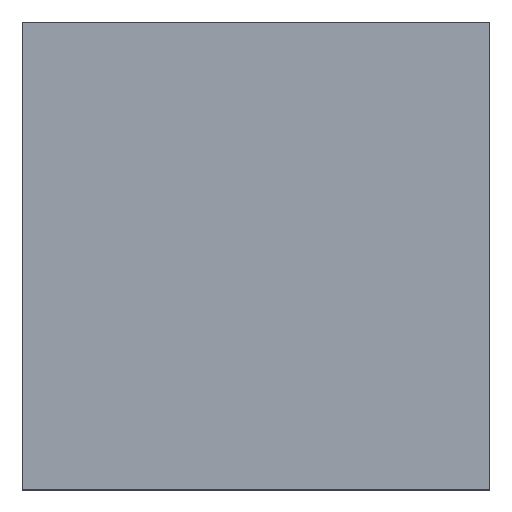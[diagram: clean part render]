
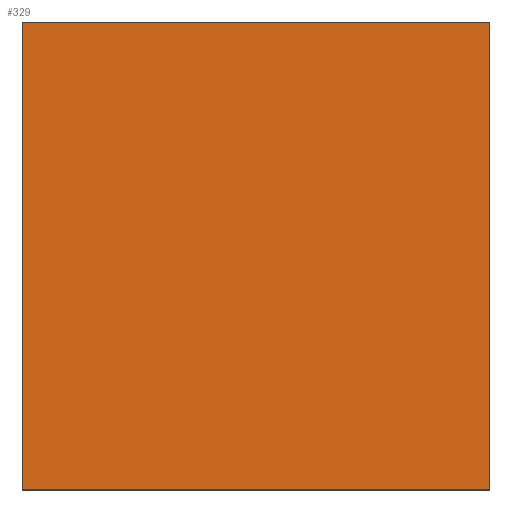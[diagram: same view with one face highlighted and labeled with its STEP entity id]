
A CAD part, top view. The second image highlights one B-rep face of the part: STEP entity #329.
In plain terms, the highlighted planar face has unit normal (0, 0, 1).
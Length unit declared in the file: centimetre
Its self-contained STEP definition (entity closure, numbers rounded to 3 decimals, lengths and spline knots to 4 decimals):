
#9 = VECTOR ( 'NONE', #427, 100. ) ;
#22 = CARTESIAN_POINT ( 'NONE',  ( 0., 1000., 1000. ) ) ;
#23 = LINE ( 'NONE', #362, #338 ) ;
#32 = PLANE ( 'NONE',  #245 ) ;
#48 = ORIENTED_EDGE ( 'NONE', *, *, #215, .T. ) ;
#52 = LINE ( 'NONE', #217, #351 ) ;
#58 = CARTESIAN_POINT ( 'NONE',  ( 0., 1000., 1000. ) ) ;
#59 = ORIENTED_EDGE ( 'NONE', *, *, #352, .T. ) ;
#74 = CARTESIAN_POINT ( 'NONE',  ( 1000., 0., 1000. ) ) ;
#80 = ORIENTED_EDGE ( 'NONE', *, *, #278, .T. ) ;
#138 = VERTEX_POINT ( 'NONE', #74 ) ;
#150 = LINE ( 'NONE', #58, #380 ) ;
#177 = EDGE_LOOP ( 'NONE', ( #48, #59, #80, #417 ) ) ;
#215 = EDGE_CURVE ( 'NONE', #251, #416, #150, .T. ) ;
#217 = CARTESIAN_POINT ( 'NONE',  ( 1000., 1000., 1000. ) ) ;
#226 = DIRECTION ( 'NONE',  ( 1., 0., 0. ) ) ;
#245 = AXIS2_PLACEMENT_3D ( 'NONE', #393, #299, #266 ) ;
#251 = VERTEX_POINT ( 'NONE', #439 ) ;
#263 = CARTESIAN_POINT ( 'NONE',  ( 1000., 1000., 1000. ) ) ;
#266 = DIRECTION ( 'NONE',  ( 1., 0., 0. ) ) ;
#277 = DIRECTION ( 'NONE',  ( 0., 1., 0. ) ) ;
#278 = EDGE_CURVE ( 'NONE', #138, #419, #52, .T. ) ;
#291 = EDGE_CURVE ( 'NONE', #419, #251, #293, .T. ) ;
#293 = LINE ( 'NONE', #22, #9 ) ;
#299 = DIRECTION ( 'NONE',  ( 0., 0., 1. ) ) ;
#306 = CARTESIAN_POINT ( 'NONE',  ( 0., 0., 1000. ) ) ;
#329 = ADVANCED_FACE ( 'NONE', ( #333 ), #32, .T. ) ;
#333 = FACE_OUTER_BOUND ( 'NONE', #177, .T. ) ;
#338 = VECTOR ( 'NONE', #226, 100. ) ;
#351 = VECTOR ( 'NONE', #277, 100. ) ;
#352 = EDGE_CURVE ( 'NONE', #416, #138, #23, .T. ) ;
#359 = DIRECTION ( 'NONE',  ( 0., -1., 0. ) ) ;
#362 = CARTESIAN_POINT ( 'NONE',  ( 0., 0., 1000. ) ) ;
#380 = VECTOR ( 'NONE', #359, 100. ) ;
#393 = CARTESIAN_POINT ( 'NONE',  ( 0., 0., 1000. ) ) ;
#416 = VERTEX_POINT ( 'NONE', #306 ) ;
#417 = ORIENTED_EDGE ( 'NONE', *, *, #291, .T. ) ;
#419 = VERTEX_POINT ( 'NONE', #263 ) ;
#427 = DIRECTION ( 'NONE',  ( -1., 0., 0. ) ) ;
#439 = CARTESIAN_POINT ( 'NONE',  ( 0., 1000., 1000. ) ) ;
